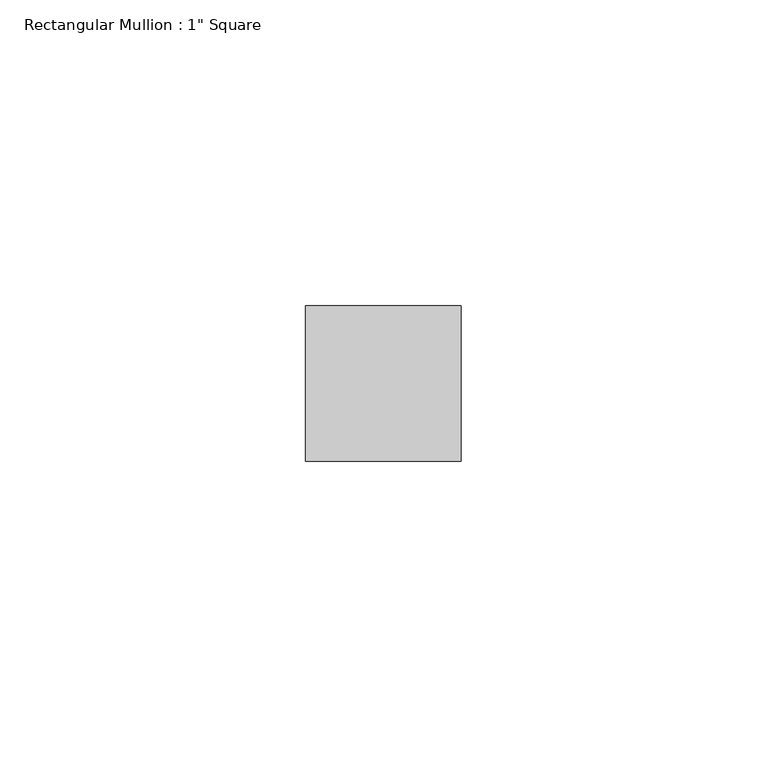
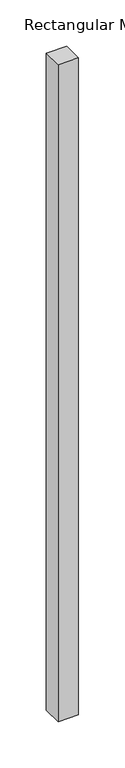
"""IFC4 building model written with IfcOpenShell, lengths in millimetres: member geometry."""

from ifc_helpers import new_model, si_unit, frame, origin, place, context, project, spatial, polyline, outline, extrude, source, transform, mapped, element, save


def member_c2ddcf79(model_context):
    return source(origin(), model_context, "Body", "SweptSolid", [
        extrude(outline(polyline([(12.7, 12.7), (12.7, -12.7), (-12.7, -12.7), (-12.7, 12.7), (12.7, 12.7)])), frame((0.0, 0.0, -865.967917), z_axis=(0.0, 0.0, 1.0), x_axis=(1.0, 0.0, 0.0)), (0.0, 0.0, 1.0), 865.967917),
    ])


if __name__ == "__main__":
    model = new_model("IFC4")
    model_context = context("Model", 3, world=origin())
    ifc_project = project(units=[si_unit("LENGTHUNIT", "METRE", prefix="MILLI")], contexts=[model_context])
    site = spatial("IfcSite", under=ifc_project)
    building = spatial("IfcBuilding", under=site)
    placement = place(None, origin())
    member_shape = member_c2ddcf79(model_context)
    element("IfcMember", 1, ObjectType="Rectangular Mullion : 1\" Square", at=placement, inside=building, context=model_context, shape_type="MappedRepresentation", body=[
        mapped(member_shape, transform((0.0, 0.0, 0.0), x_axis=(1.0, 0.0, 0.0), y_axis=(0.0, 1.0, 0.0), z_axis=(0.0, 0.0, 1.0))),
    ])
    save(model, "model.ifc")
